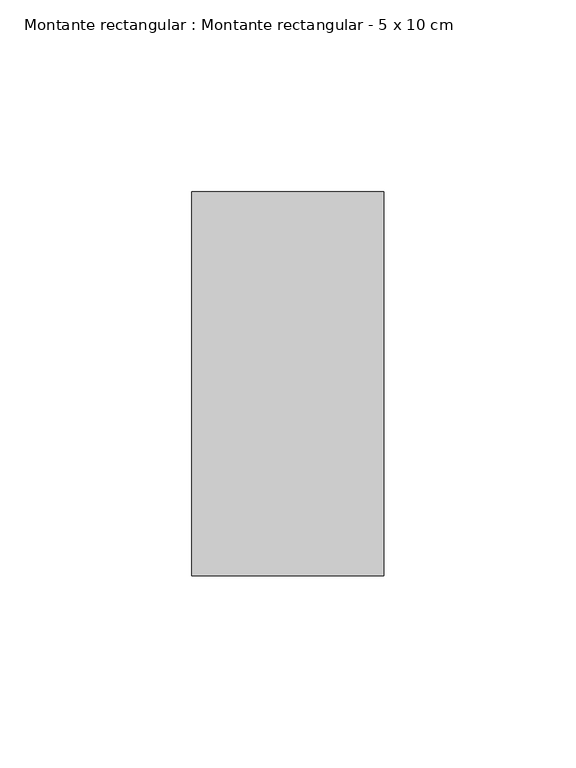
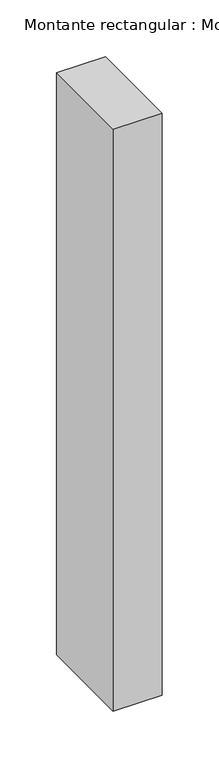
"""IFC4 building model written with IfcOpenShell, lengths in millimetres: member geometry, Montante rectangular : Montante rectangular - 5 x 10 cm."""

from ifc_helpers import new_model, si_unit, frame, origin, place, context, project, spatial, polyline, outline, extrude, source, transform, mapped, element, save


def montante_rectangular_montante_rectangular_5_x_10_cm_393b89c0(model_context):
    return source(origin(), model_context, "Body", "SweptSolid", [
        extrude(outline(polyline([(25.0, 50.0), (25.0, -50.0), (-25.0, -50.0), (-25.0, 50.0), (25.0, 50.0)])), frame((0.0, 0.0, -626.6666668), z_axis=(0.0, 0.0, 1.0), x_axis=(1.0, 0.0, 0.0)), (0.0, 0.0, 1.0), 626.6666668),
    ])


if __name__ == "__main__":
    model = new_model("IFC4")
    model_context = context("Model", 3, world=origin())
    ifc_project = project(units=[si_unit("LENGTHUNIT", "METRE", prefix="MILLI")], contexts=[model_context])
    site = spatial("IfcSite", under=ifc_project)
    building = spatial("IfcBuilding", under=site)
    placement = place(None, origin())
    montante_rectangular_montante_rectangular_5_x_10_cm_shape = montante_rectangular_montante_rectangular_5_x_10_cm_393b89c0(model_context)
    element("IfcMember", 1, ObjectType="Montante rectangular : Montante rectangular - 5 x 10 cm", at=placement, inside=building, context=model_context, shape_type="MappedRepresentation", body=[
        mapped(montante_rectangular_montante_rectangular_5_x_10_cm_shape, transform((0.0, 0.0, 0.0), x_axis=(1.0, 0.0, 0.0), y_axis=(0.0, 1.0, 0.0), z_axis=(0.0, 0.0, 1.0))),
    ])
    save(model, "model.ifc")
